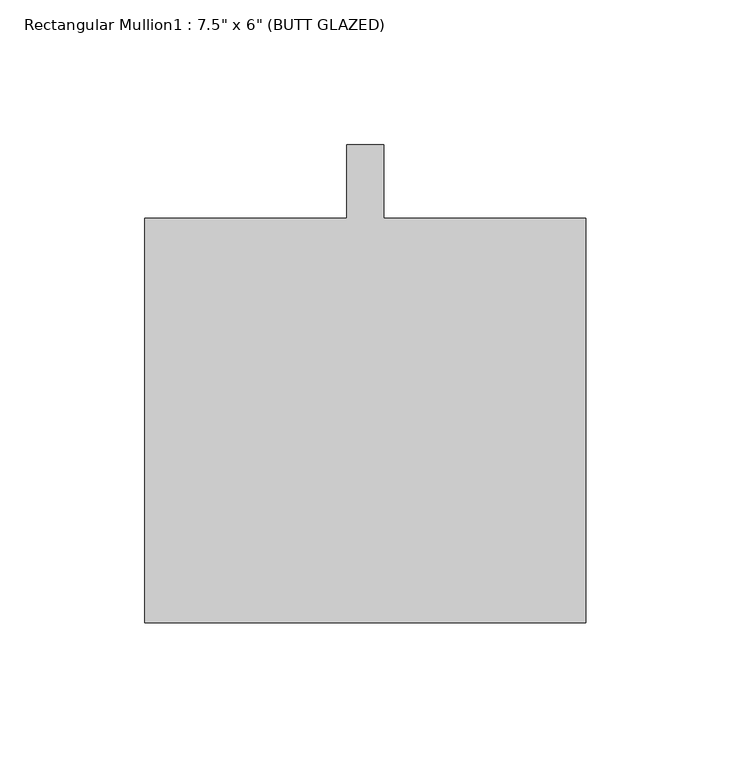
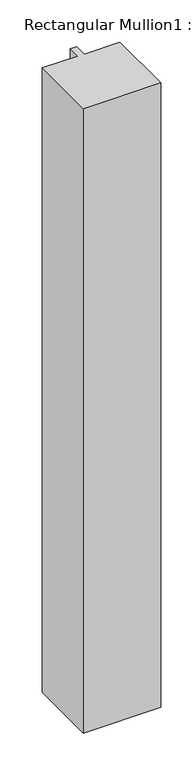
"""IFC4 building model written with IfcOpenShell, lengths in millimetres: member geometry."""

import ifcopenshell
import ifcopenshell.guid

model = None  # the IFC model being written
_history = None  # IfcOwnerHistory: only IFC2X3 demands one
_inside = {}  # id of a spatial element -> (the spatial element, [elements in it])
_under = {}  # id of a project, library or spatial element -> (it, [spatial elements below it])
_declared = {}  # id of a project -> (the project, [libraries it declares])
_typed = {}  # id of a type object -> (the type object, [elements of that type])
_made_of = {}  # id of a material, layer set ... -> (it, [elements and type objects made of it])


def new_model(schema):
    """Start an empty IFC model of exactly this schema.

    Asked for "IFC4X3", IfcOpenShell would pick the latest addendum, in which some entities
    have other attributes; the version numbers below select the first issue.
    IFC2X3 requires an IfcOwnerHistory on every rooted entity: one is made here for all.
    """
    global model, _history
    if schema == "IFC4X3":
        model = ifcopenshell.file(schema_version=(4, 3, 0, 0))
    else:
        model = ifcopenshell.file(schema=schema)
    _inside.clear()
    _under.clear()
    _declared.clear()
    _typed.clear()
    _made_of.clear()
    _history = None
    if model.schema == "IFC2X3":
        org = make("IfcOrganization", Name="unknown")
        user = make(
            "IfcPersonAndOrganization",
            ThePerson=make("IfcPerson", FamilyName="unknown"),
            TheOrganization=org,
        )
        app = make(
            "IfcApplication",
            ApplicationDeveloper=org,
            Version="unknown",
            ApplicationFullName="unknown",
            ApplicationIdentifier="unknown",
        )
        _history = make(
            "IfcOwnerHistory",
            OwningUser=user,
            OwningApplication=app,
            ChangeAction="ADDED",
            CreationDate=0,
        )
    return model


def make(cls, **values):
    """One entity of the class cls with the attributes given. An attribute that is None is left unset."""
    return model.create_entity(
        cls, **{name: value for name, value in values.items() if value is not None}
    )


def rooted(cls, **values):
    """An entity with a GlobalId (a new one), such as an element, a storey or a relation."""
    return make(cls, GlobalId=ifcopenshell.guid.new(), OwnerHistory=_history, **values)


def si_unit(unit_type, name, prefix=None):
    """IfcSIUnit, for example si_unit("LENGTHUNIT", "METRE", prefix="MILLI")."""
    return make("IfcSIUnit", UnitType=unit_type, Prefix=prefix, Name=name)


def assignment(units):
    """IfcUnitAssignment: the units of a project."""
    return None if units is None else make("IfcUnitAssignment", Units=units)


def point(xyz):
    """IfcCartesianPoint."""
    return None if xyz is None else make("IfcCartesianPoint", Coordinates=xyz)


def direction(xyz):
    """IfcDirection."""
    return None if xyz is None else make("IfcDirection", DirectionRatios=xyz)


def frame(location, z_axis=None, x_axis=None):
    """IfcAxis2Placement3D, a coordinate frame: its origin and axes. An axis left out is left unset."""
    return make(
        "IfcAxis2Placement3D",
        Location=point(location),
        Axis=direction(z_axis),
        RefDirection=direction(x_axis),
    )


def origin():
    """The frame at (0, 0, 0) with its axes left unset."""
    return frame((0.0, 0.0, 0.0))


def place(relative_to, where):
    """IfcLocalPlacement: puts the frame where relative to a parent placement (None: the world)."""
    return make(
        "IfcLocalPlacement", PlacementRelTo=relative_to, RelativePlacement=where
    )


def context(
    kind, dimensions, precision=None, world=None, true_north=None, identifier=None
):
    """IfcGeometricRepresentationContext, for example the 3D "Model" context."""
    return make(
        "IfcGeometricRepresentationContext",
        ContextIdentifier=identifier,
        ContextType=kind,
        CoordinateSpaceDimension=dimensions,
        Precision=precision,
        WorldCoordinateSystem=world,
        TrueNorth=true_north,
    )


def project(units=None, contexts=None):
    """IfcProject with its units and contexts."""
    return rooted(
        "IfcProject",
        Name="project",
        RepresentationContexts=contexts,
        UnitsInContext=assignment(units),
    )


def spatial(cls, under=None, at=None, **own):
    """A site, building, storey or space (cls), placed at a placement, below another one or the project."""
    s = rooted(cls, ObjectPlacement=at, **own)
    if under is not None:
        _under.setdefault(under.id(), (under, []))[1].append(s)
    return s


def polyline(points):
    """IfcPolyline through the points."""
    return make("IfcPolyline", Points=[point(p) for p in points])


def outline(outer, holes=None, kind="AREA"):
    """IfcArbitraryClosedProfileDef: a profile drawn as a closed curve; with holes, ...WithVoids."""
    if holes is None:
        return make("IfcArbitraryClosedProfileDef", ProfileType=kind, OuterCurve=outer)
    return make(
        "IfcArbitraryProfileDefWithVoids",
        ProfileType=kind,
        OuterCurve=outer,
        InnerCurves=holes,
    )


def extrude(swept, where, along, depth):
    """IfcExtrudedAreaSolid: the profile swept, set in the frame where, extruded along a direction by depth."""
    return make(
        "IfcExtrudedAreaSolid",
        SweptArea=swept,
        Position=where,
        ExtrudedDirection=direction(along),
        Depth=depth,
    )


def shape(context_of_items, identifier, shape_type, items):
    """IfcShapeRepresentation: the items that make up one representation, for example the "Body"."""
    return make(
        "IfcShapeRepresentation",
        ContextOfItems=context_of_items,
        RepresentationIdentifier=identifier,
        RepresentationType=shape_type,
        Items=items,
    )


def source(mapping_origin, context_of_items, identifier, shape_type, items):
    """IfcRepresentationMap: a shape defined once, which mapped items show again and again."""
    return make(
        "IfcRepresentationMap",
        MappingOrigin=mapping_origin,
        MappedRepresentation=shape(context_of_items, identifier, shape_type, items),
    )


def transform(
    local_origin,
    x_axis=None,
    y_axis=None,
    z_axis=None,
    scale=None,
    scale2=None,
    scale3=None,
    uniform=True,
):
    """IfcCartesianTransformationOperator3D, or its non-uniform kind. x_axis, y_axis, z_axis: its Axis1, 2, 3."""
    if uniform:
        return make(
            "IfcCartesianTransformationOperator3D",
            Axis1=direction(x_axis),
            Axis2=direction(y_axis),
            LocalOrigin=point(local_origin),
            Scale=scale,
            Axis3=direction(z_axis),
        )
    return make(
        "IfcCartesianTransformationOperator3DnonUniform",
        Axis1=direction(x_axis),
        Axis2=direction(y_axis),
        LocalOrigin=point(local_origin),
        Scale=scale,
        Axis3=direction(z_axis),
        Scale2=scale2,
        Scale3=scale3,
    )


def mapped(mapping_source, mapping_target):
    """IfcMappedItem: shows the shape of a source again, moved by a transform."""
    return make(
        "IfcMappedItem", MappingSource=mapping_source, MappingTarget=mapping_target
    )


def made_of(thing, what):
    """Note that an element or type object is made of a material, layer set ...; save() writes the relation."""
    if what is not None:
        _made_of.setdefault(what.id(), (what, []))[1].append(thing)
    return thing


def element(
    cls,
    number,
    at=None,
    inside=None,
    cuts=None,
    type_object=None,
    material=None,
    context=None,
    identifier="Body",
    shape_type=None,
    held_by="IfcProductDefinitionShape",
    body=None,
    shapes=None,
    **own,
):
    """One element of the class cls, such as IfcWall. Its Tag is "e" and its number.

    at: its placement. inside: the storey or other place that contains it. cuts: it is an
    opening in that element (IfcRelVoidsElement). A single representation is given by context,
    identifier, shape_type and body (its items); several are given by shapes. held_by: the class
    of the entity that holds the representations. save() writes the other relations.
    """
    e = rooted(cls, Tag="e%d" % number, ObjectPlacement=at, **own)
    if body is not None:
        shapes = [shape(context, identifier, shape_type, body)]
    if shapes is not None:
        e.Representation = make(held_by, Representations=shapes)
    if inside is not None:
        _inside.setdefault(inside.id(), (inside, []))[1].append(e)
    if cuts is not None:
        rooted(
            "IfcRelVoidsElement", RelatingBuildingElement=cuts, RelatedOpeningElement=e
        )
    if type_object is not None:
        _typed.setdefault(type_object.id(), (type_object, []))[1].append(e)
    return made_of(e, material)


def aggregate(whole, parts):
    """IfcRelAggregates: a whole, such as a stair, and the parts it consists of."""
    return rooted("IfcRelAggregates", RelatingObject=whole, RelatedObjects=parts)


def save(model, path):
    """Write the relations noted so far, then the file.

    IfcRelAggregates (storeys below a building ...), IfcRelContainedInSpatialStructure (elements
    in a storey), IfcRelDefinesByType, IfcRelAssociatesMaterial and IfcRelDeclares: one each for
    every whole, place, type object, material and project.
    """
    for whole, parts in _under.values():
        aggregate(whole, parts)
    for where, things in _inside.values():
        rooted(
            "IfcRelContainedInSpatialStructure",
            RelatedElements=things,
            RelatingStructure=where,
        )
    for kind, things in _typed.values():
        rooted("IfcRelDefinesByType", RelatedObjects=things, RelatingType=kind)
    for what, things in _made_of.values():
        rooted("IfcRelAssociatesMaterial", RelatedObjects=things, RelatingMaterial=what)
    for by, libraries in _declared.values():
        rooted("IfcRelDeclares", RelatingContext=by, RelatedDefinitions=libraries)
    model.write(path)


def member_e0d25c64(model_context):
    return source(origin(), model_context, "Body", "SweptSolid", [
        extrude(outline(polyline([(76.2, -165.1), (-76.2, -165.1), (-76.2, -25.4), (-6.35, -25.4), (-6.35, 0.0), (6.35, 0.0), (6.35, -25.4), (76.2, -25.4), (76.2, -165.1)])), frame((0.0, 0.0, -1301.0082852), z_axis=(0.0, 0.0, 1.0), x_axis=(1.0, 0.0, 0.0)), (0.0, 0.0, 1.0), 1301.0082852),
    ])


if __name__ == "__main__":
    model = new_model("IFC4")
    model_context = context("Model", 3, world=origin())
    ifc_project = project(units=[si_unit("LENGTHUNIT", "METRE", prefix="MILLI")], contexts=[model_context])
    site = spatial("IfcSite", under=ifc_project)
    building = spatial("IfcBuilding", under=site)
    placement = place(None, origin())
    member_shape = member_e0d25c64(model_context)
    element("IfcMember", 1, ObjectType="Rectangular Mullion1 : 7.5\" x 6\" (BUTT GLAZED)", at=placement, inside=building, context=model_context, shape_type="MappedRepresentation", body=[
        mapped(member_shape, transform((0.0, 0.0, 0.0), x_axis=(1.0, 0.0, 0.0), y_axis=(0.0, 1.0, 0.0), z_axis=(0.0, 0.0, 1.0))),
    ])
    save(model, "model.ifc")
